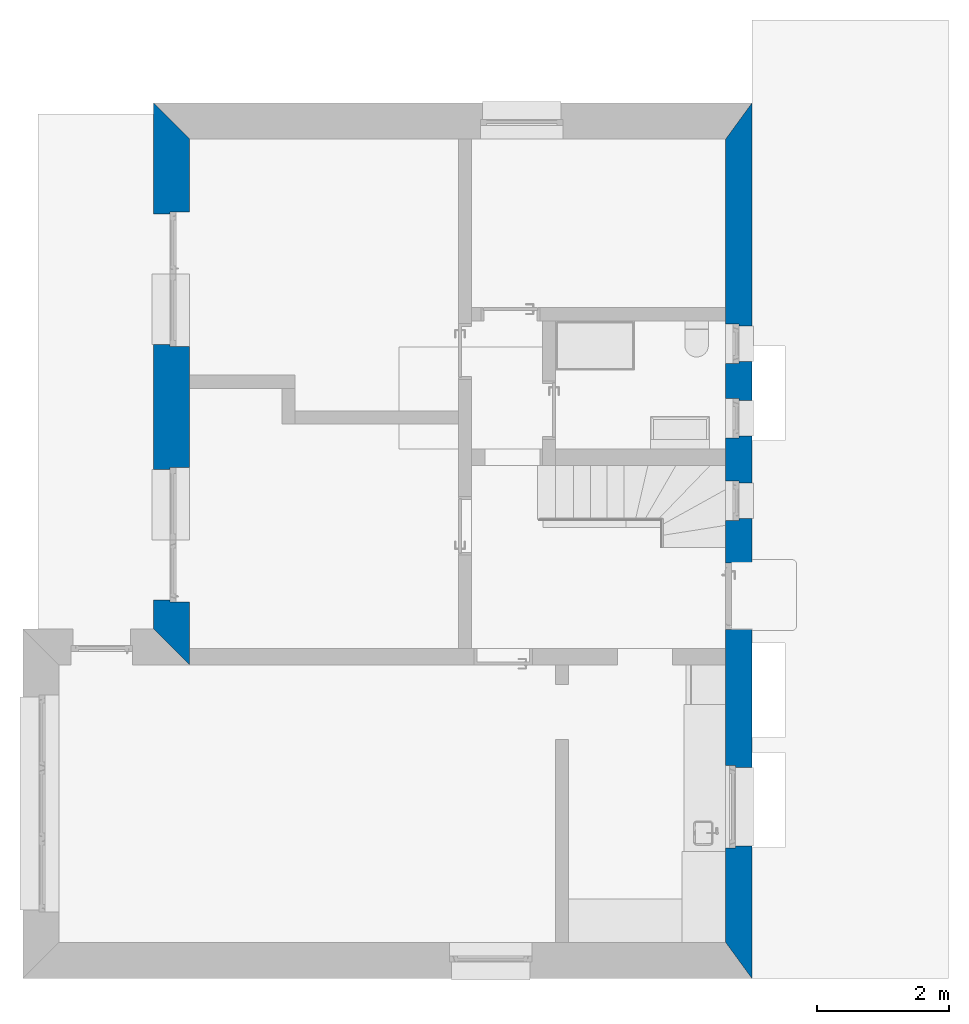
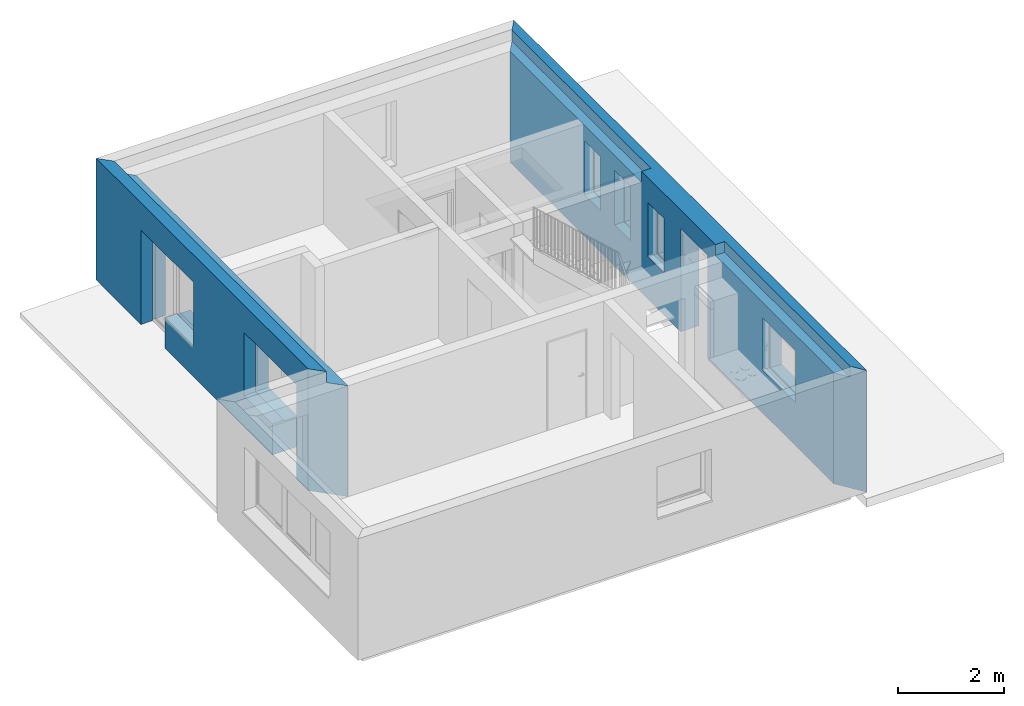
# One storey, part 7 of 18: 2 walls.
"""IFC2X3 building model written with IfcOpenShell, lengths in metres."""

from ifc_helpers import new_model, entity, si_unit, converted_unit, derived_unit, direction, frame, origin, place, context, subcontext, project, spatial, faceted_brep, material, layer, layer_set, type_object, element, save


model = new_model("IFC2X3")

# Units and contexts
model_context = context("Model", 3, precision=1e-05, world=origin(), true_north=direction((6.123233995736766e-17, 1.0)))
body_context = subcontext(model_context, "Body", "Model", "MODEL_VIEW")
ifc_project = project(units=[si_unit("LENGTHUNIT", "METRE"), si_unit("AREAUNIT", "SQUARE_METRE"), si_unit("VOLUMEUNIT", "CUBIC_METRE"), si_unit("POWERUNIT", "WATT"), derived_unit("USERDEFINED", [(si_unit("MASSUNIT", "GRAM", prefix="KILO"), 1), (si_unit("TIMEUNIT", "SECOND"), -3)]), derived_unit("THERMALRESISTANCEUNIT", [(si_unit("MASSUNIT", "GRAM", prefix="KILO"), -1), (si_unit("TIMEUNIT", "SECOND"), 3), (si_unit("THERMODYNAMICTEMPERATUREUNIT", "KELVIN"), 1)]), derived_unit("USERDEFINED", [(si_unit("MASSUNIT", "GRAM", prefix="KILO"), 1), (si_unit("TIMEUNIT", "SECOND"), -2), (si_unit("THERMODYNAMICTEMPERATUREUNIT", "KELVIN"), -1)]), derived_unit("THERMALTRANSMITTANCEUNIT", [(si_unit("MASSUNIT", "GRAM", prefix="KILO"), 1), (si_unit("TIMEUNIT", "SECOND"), -3), (si_unit("THERMODYNAMICTEMPERATUREUNIT", "KELVIN"), -1)]), converted_unit("PLANEANGLEUNIT", "DEGREE", entity("IfcPlaneAngleMeasure", 0.017453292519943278), si_unit("PLANEANGLEUNIT", "RADIAN"), dimensions=[0, 0, 0, 0, 0, 0, 0]), derived_unit("MOMENTOFINERTIAUNIT", [(si_unit("LENGTHUNIT", "METRE"), 4)])], contexts=[model_context])

# Site, building, storey
site_placement = place(None, origin())
site = spatial("IfcSite", under=ifc_project, at=site_placement, Name="Default", CompositionType="ELEMENT")
building_placement = place(site_placement, origin())
building = spatial("IfcBuilding", under=site, at=building_placement, CompositionType="ELEMENT")
storey_placement = place(building_placement, frame((0.0, 0.0, 2.6)))
storey = spatial("IfcBuildingStorey", under=building, at=storey_placement, Name="Erdgeschoss", CompositionType="ELEMENT", Elevation=2.6)

# Walls
ifc_material_1 = material(Name="Dämmung - hart")
ifc_layer_1 = layer(ifc_material_1, 0.24999999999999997)
ifc_material_2 = material(Name="Mauerwerk - Ziegel")
ifc_layer_2 = layer(ifc_material_2, 0.29999999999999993)
ifc_layer_set_1 = layer_set([ifc_layer_1, ifc_layer_2], Name="Basiswand:Ziegel+WD hart 300+250")
wall_type_1 = type_object("IfcWallType", Name="Basiswand:Ziegel+WD hart 300+250", PredefinedType="STANDARD", material=ifc_layer_set_1)
wall_1_placement = place(storey_placement, frame((29.81172000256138, 28.592272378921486, 0.0), z_axis=(0.0, 0.0, 1.0), x_axis=(0.0, -1.0, 0.0)))
element("IfcWall", 1, at=wall_1_placement, inside=storey, type_object=wall_type_1, Name="Basiswand:Ziegel+WD hart 300+250", ObjectType="Basiswand:Ziegel+WD hart 300+250", context=body_context, shape_type="Brep", body=[
    faceted_brep([(7.989999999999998, -0.2750000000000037, 2.8000000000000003), (0.0, -0.27500000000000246, 2.8000000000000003), (0.0, -0.27500000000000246, 0.0), (1.6900000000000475, -0.27500000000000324, 0.0), (1.6900000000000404, -0.27500000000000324, 2.170000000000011), (3.6699999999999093, -0.275, 2.170000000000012), (3.6699999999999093, -0.275, 0.7100000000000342), (2.599999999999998, -0.2750000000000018, 0.7100000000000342), (2.599999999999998, -0.2750000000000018, 0.0), (6.640000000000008, -0.27499999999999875, 0.0), (6.639999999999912, -0.27499999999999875, 0.7100000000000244), (5.569999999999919, -0.27500000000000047, 0.7100000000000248), (5.569999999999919, -0.27500000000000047, 2.1700000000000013), (7.550000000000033, -0.27500000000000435, 2.17000000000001), (7.550000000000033, -0.27500000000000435, 0.0), (7.990000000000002, -0.2750000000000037, 0.0), (2.599999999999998, 0.2749999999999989, 0.6999999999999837), (3.700000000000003, 0.27500000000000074, 0.6999999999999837), (3.6999999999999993, 0.27500000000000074, 2.1999999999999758), (1.6600000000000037, 0.2749999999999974, 2.200000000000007), (1.6600000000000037, 0.2749999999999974, 0.0), (0.5500000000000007, 0.27499999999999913, 0.0), (0.5500000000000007, 0.27499999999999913, 2.550000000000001), (4.135637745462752, 0.27499999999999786, 2.550000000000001), (4.335637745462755, 0.2749999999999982, 2.550000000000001), (8.29, 0.2749999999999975, 2.550000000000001), (8.54, 0.27499999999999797, 2.550000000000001), (8.54, 0.27499999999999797, 0.0), (8.29, 0.2749999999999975, 0.0), (7.579999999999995, 0.27499999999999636, 0.0), (7.579999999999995, 0.27499999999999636, 2.200000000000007), (5.540000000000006, 0.2750000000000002, 2.199999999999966), (5.540000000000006, 0.2750000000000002, 0.699999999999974), (6.640000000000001, 0.27500000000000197, 0.699999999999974), (6.640000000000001, 0.27500000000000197, 0.0), (4.335637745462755, 0.2749999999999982, 0.0), (4.135637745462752, 0.27499999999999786, 0.0), (2.599999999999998, 0.2749999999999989, 0.0), (1.6600000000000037, -0.025000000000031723, 0.0), (1.6900000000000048, -0.02500000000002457, 0.0), (8.240000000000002, -0.024999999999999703, 2.8000000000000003), (0.25000000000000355, -0.02499999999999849, 2.8000000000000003), (0.2500000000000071, -0.024999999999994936, 2.550000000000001), (8.240000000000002, -0.024999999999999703, 2.550000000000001), (3.6999999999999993, -0.025000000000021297, 0.6999999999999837), (2.600000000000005, -0.025000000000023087, 0.6999999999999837), (3.6999999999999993, -0.025000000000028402, 2.200000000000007), (3.6700000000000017, -0.025000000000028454, 0.7200000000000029), (2.599999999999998, -0.025000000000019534, 0.7200000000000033), (3.6700000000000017, -0.025000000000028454, 2.1700000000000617), (5.540000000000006, -0.02500000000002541, 2.199999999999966), (7.579999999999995, -0.0250000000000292, 2.199999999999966), (5.540000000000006, -0.02500000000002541, 0.699999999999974), (6.640000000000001, -0.02500000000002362, 0.699999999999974), (7.580000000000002, -0.0250000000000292, 0.0), (7.549999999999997, -0.025000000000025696, 0.0), (7.549999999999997, -0.025000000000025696, 2.170000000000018), (5.569999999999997, -0.025000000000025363, 2.170000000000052), (5.569999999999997, -0.025000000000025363, 0.7199999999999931), (6.640000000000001, -0.02500000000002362, 0.7199999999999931), (1.6600000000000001, -0.025000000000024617, 2.200000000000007), (2.599999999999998, -0.025000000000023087, 0.0), (1.6900000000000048, -0.025000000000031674, 2.170000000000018), (6.640000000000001, -0.025000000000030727, 0.0)], [[[0, 1, 2, 3, 4, 5, 6, 7, 8, 9, 10, 11, 12, 13, 14, 15]], [[16, 17, 18, 19, 20, 21, 22, 23, 24, 25, 26, 27, 28, 29, 30, 31, 32, 33, 34, 35, 36, 37]], [[2, 21, 20, 38, 39, 3]], [[1, 0, 40, 41]], [[2, 1, 41, 42, 22, 21]], [[15, 27, 26, 43, 40, 0]], [[42, 43, 26, 25, 24, 23, 22]], [[43, 42, 41, 40]], [[44, 17, 16, 45]], [[46, 18, 17, 44]], [[47, 48, 7, 6]], [[49, 47, 6, 5]], [[50, 31, 30, 51]], [[32, 52, 53, 33]], [[31, 50, 52, 32]], [[53, 52, 50, 51, 54, 55, 56, 57, 58, 59]], [[58, 57, 12, 11]], [[59, 58, 11, 10]], [[12, 57, 56, 13]], [[18, 46, 60, 19]], [[19, 60, 38, 20]], [[61, 8, 7, 48, 45, 16, 37]], [[44, 45, 48, 47, 49, 62, 39, 38, 60, 46]], [[39, 62, 4, 3]], [[49, 5, 4, 62]], [[34, 33, 53, 59, 10, 9, 63]], [[51, 30, 29, 54]], [[13, 56, 55, 14]], [[8, 61, 37, 36, 35, 34, 63, 9]], [[27, 15, 14, 55, 54, 29, 28]]]),
])
ifc_layer_3 = layer(ifc_material_1, 0.2)
ifc_layer_4 = layer(ifc_material_2, 0.2)
ifc_layer_set_2 = layer_set([ifc_layer_3, ifc_layer_4], Name="Basiswand:Ziegel+WD hart 200+200")
wall_type_2 = type_object("IfcWallType", Name="Basiswand:Ziegel+WD hart 200+200", PredefinedType="STANDARD", material=ifc_layer_set_2)
wall_2_placement = place(storey_placement, frame((38.42672000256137, 15.292272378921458, 0.0), z_axis=(0.0, 0.0, 1.0), x_axis=(0.0, 1.0, 0.0)))
element("IfcWall", 2, at=wall_2_placement, inside=storey, type_object=wall_type_2, Name="Basiswand:Ziegel+WD hart 200+200", ObjectType="Basiswand:Ziegel+WD hart 200+200", context=body_context, shape_type="Brep", body=[
    faceted_brep([(13.299999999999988, -0.19999999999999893, 2.8000000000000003), (0.0, -0.19999999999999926, 2.8000000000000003), (0.0, -0.19999999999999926, 0.0), (5.304999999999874, -0.19999999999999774, 0.0), (5.304999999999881, -0.19999999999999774, 2.374999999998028), (6.314999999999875, -0.19999999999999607, 2.374999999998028), (6.314999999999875, -0.19999999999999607, 0.0), (13.299999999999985, -0.19999999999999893, 0.0), (6.984999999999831, -0.2000000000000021, 0.9858571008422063), (6.984999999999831, -0.2000000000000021, 2.195857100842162), (7.524999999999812, -0.2000000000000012, 2.195857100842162), (7.524999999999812, -0.2000000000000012, 0.9858571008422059), (8.239999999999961, -0.20000000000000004, 0.9600000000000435), (8.239999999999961, -0.20000000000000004, 2.1699999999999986), (8.779999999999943, -0.19999999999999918, 2.1699999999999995), (8.779999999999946, -0.19999999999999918, 0.9600000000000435), (9.372499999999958, -0.2000000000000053, 0.9600000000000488), (9.372499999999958, -0.2000000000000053, 2.170000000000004), (9.91249999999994, -0.20000000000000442, 2.170000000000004), (9.91249999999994, -0.20000000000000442, 0.9600000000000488), (3.2050000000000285, -0.20000000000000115, 2.1599999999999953), (3.2050000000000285, -0.20000000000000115, 1.0), (2.015000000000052, -0.2000000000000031, 1.0), (2.0150000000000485, -0.2000000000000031, 2.1599999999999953), (7.55499999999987, 0.1999999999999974, 2.2258571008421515), (6.954999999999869, 0.19999999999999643, 2.2258571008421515), (6.954999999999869, 0.19999999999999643, 0.9758571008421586), (7.5549999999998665, 0.1999999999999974, 0.9758571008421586), (8.81, 0.19999999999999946, 2.199999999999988), (8.209999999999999, 0.19999999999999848, 2.199999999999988), (8.209999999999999, 0.19999999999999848, 0.9499999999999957), (8.809999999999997, 0.19999999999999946, 0.9499999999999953), (9.942499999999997, 0.2000000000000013, 2.1999999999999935), (9.342499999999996, 0.20000000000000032, 2.1999999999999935), (9.342499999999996, 0.20000000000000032, 0.9500000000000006), (9.942499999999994, 0.2000000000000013, 0.9500000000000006), (12.749999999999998, 0.19999999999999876, 0.0), (10.189999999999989, 0.2000000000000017, 0.0), (9.989999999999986, 0.20000000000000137, 0.0), (8.039999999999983, 0.1999999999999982, 0.0), (7.78999999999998, 0.1999999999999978, 0.0), (6.314999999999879, 0.2000000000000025, 0.0), (6.314999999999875, 0.2000000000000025, 2.374999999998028), (5.304999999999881, 0.20000000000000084, 2.374999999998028), (5.304999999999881, 0.20000000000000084, 0.0), (5.010000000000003, 0.20000000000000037, 0.0), (4.760000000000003, 0.19999999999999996, 0.0), (0.5499999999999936, 0.2000000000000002, 0.0), (0.5499999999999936, 0.2000000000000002, 2.550000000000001), (4.760000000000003, 0.19999999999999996, 2.550000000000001), (5.010000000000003, 0.20000000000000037, 2.550000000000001), (5.010000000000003, 0.20000000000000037, 2.8000000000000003), (7.789999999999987, 0.1999999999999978, 2.8000000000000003), (7.789999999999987, 0.1999999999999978, 2.550000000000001), (8.03999999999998, 0.1999999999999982, 2.550000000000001), (9.989999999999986, 0.20000000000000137, 2.550000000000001), (10.189999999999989, 0.2000000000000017, 2.550000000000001), (12.749999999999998, 0.19999999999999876, 2.550000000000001), (3.2349999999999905, 0.19999999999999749, 2.1899999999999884), (1.984999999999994, 0.19999999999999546, 2.1899999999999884), (1.984999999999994, 0.19999999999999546, 0.9899999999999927), (3.2349999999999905, 0.19999999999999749, 0.9899999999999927), (13.02499999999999, 0.0, 2.8000000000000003), (7.789999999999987, 0.0, 2.8000000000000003), (5.010000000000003, 0.0, 2.8000000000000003), (0.27500000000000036, 0.0, 2.8000000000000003), (0.27500000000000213, 0.0, 2.550000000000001), (13.024999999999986, 0.0, 2.550000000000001), (7.55499999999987, 0.0, 2.2258571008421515), (6.954999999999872, 0.0, 2.2258571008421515), (7.55499999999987, 0.0, 0.9758571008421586), (6.954999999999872, 0.0, 0.9758571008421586), (6.98499999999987, 0.0, 2.1958571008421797), (6.98499999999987, 0.0, 0.9958571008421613), (7.524999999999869, 0.0, 0.9958571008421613), (7.524999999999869, 0.0, 2.1958571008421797), (8.81, 0.0, 2.199999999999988), (8.210000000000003, 0.0, 2.199999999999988), (8.81, 0.0, 0.9499999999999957), (8.210000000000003, 0.0, 0.9499999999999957), (8.24, 0.0, 2.1700000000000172), (8.24, 0.0, 0.9699999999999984), (8.78, 0.0, 0.9699999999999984), (8.78, 0.0, 2.1700000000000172), (9.942499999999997, 0.0, 2.1999999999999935), (9.3425, 0.0, 2.1999999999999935), (9.942499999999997, 0.0, 0.9500000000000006), (9.3425, 0.0, 0.9500000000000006), (9.372499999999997, 0.0, 2.1700000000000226), (9.372499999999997, 0.0, 0.9700000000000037), (9.912499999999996, 0.0, 0.9700000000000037), (9.912499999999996, 0.0, 2.1700000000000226), (1.984999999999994, 0.049999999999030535, 2.1899999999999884), (3.2349999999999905, 0.04999999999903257, 2.1899999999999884), (1.984999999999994, 0.049999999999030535, 0.9899999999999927), (3.2349999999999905, 0.04999999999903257, 0.9899999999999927), (3.204999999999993, 0.04999999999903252, 2.160000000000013), (2.0149999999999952, 0.049999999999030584, 2.160000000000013), (2.0149999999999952, 0.049999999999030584, 1.0099999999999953), (3.204999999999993, 0.04999999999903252, 1.0099999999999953), (5.010000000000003, 0.0, 2.550000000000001), (7.789999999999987, 0.0, 2.550000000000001)], [[[0, 1, 2, 3, 4, 5, 6, 7], [8, 9, 10, 11], [12, 13, 14, 15], [16, 17, 18, 19], [20, 21, 22, 23]], [[24, 25, 26, 27], [28, 29, 30, 31], [32, 33, 34, 35], [36, 37, 38, 39, 40, 41, 42, 43, 44, 45, 46, 47, 48, 49, 50, 51, 52, 53, 54, 55, 56, 57], [58, 59, 60, 61]], [[2, 47, 46, 45, 44, 3]], [[1, 0, 62, 63, 52, 51, 64, 65]], [[2, 1, 65, 66, 48, 47]], [[0, 7, 36, 57, 67, 62]], [[68, 69, 25, 24]], [[70, 27, 26, 71]], [[68, 24, 27, 70]], [[25, 69, 71, 26]], [[69, 68, 70, 71], [72, 73, 74, 75]], [[73, 72, 9, 8]], [[74, 73, 8, 11]], [[75, 74, 11, 10]], [[72, 75, 10, 9]], [[76, 77, 29, 28]], [[78, 31, 30, 79]], [[76, 28, 31, 78]], [[29, 77, 79, 30]], [[77, 76, 78, 79], [80, 81, 82, 83]], [[81, 80, 13, 12]], [[82, 81, 12, 15]], [[83, 82, 15, 14]], [[80, 83, 14, 13]], [[84, 85, 33, 32]], [[86, 35, 34, 87]], [[84, 32, 35, 86]], [[33, 85, 87, 34]], [[85, 84, 86, 87], [88, 89, 90, 91]], [[89, 88, 17, 16]], [[90, 89, 16, 19]], [[91, 90, 19, 18]], [[88, 91, 18, 17]], [[4, 43, 42, 5]], [[5, 42, 41, 6]], [[43, 4, 3, 44]], [[92, 59, 58, 93]], [[94, 95, 61, 60]], [[59, 92, 94, 60]], [[93, 58, 61, 95]], [[92, 93, 95, 94], [96, 97, 98, 99]], [[96, 99, 21, 20]], [[99, 98, 22, 21]], [[98, 97, 23, 22]], [[97, 96, 20, 23]], [[66, 100, 50, 49, 48]], [[101, 63, 62, 67]], [[63, 101, 53, 52]], [[100, 64, 51, 50]], [[64, 100, 66, 65]], [[53, 101, 67, 57, 56, 55, 54]], [[36, 7, 6, 41, 40, 39, 38, 37]]], outer=[[True, False, False, False, False], [False, False, False, True, False], [True], [True], [True], [True], [True], [True], [True], [True], [True, False], [True], [True], [True], [True], [True], [True], [True], [True], [True, False], [True], [True], [True], [True], [True], [True], [True], [True], [True, False], [True], [True], [True], [True], [True], [True], [True], [True], [True], [True], [True], [True, False], [True], [True], [True], [True], [True], [True], [True], [True], [True], [True], [True]]),
])

save(model, "model.ifc")
